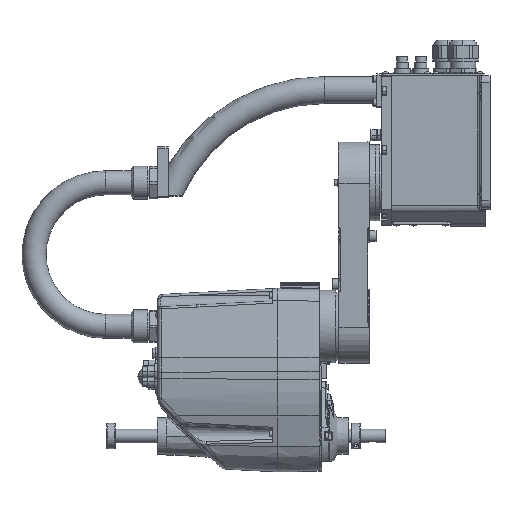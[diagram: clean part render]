
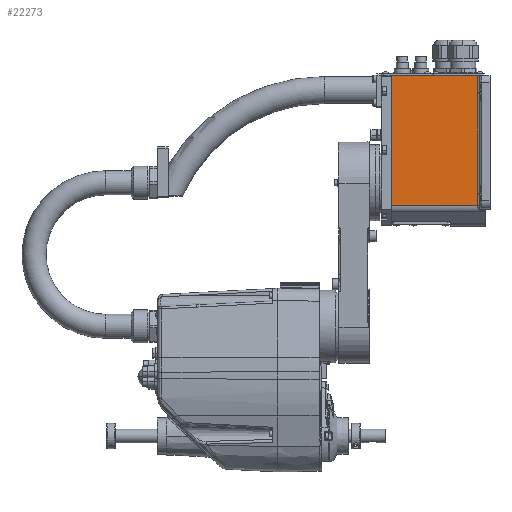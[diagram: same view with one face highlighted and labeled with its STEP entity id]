
A CAD part, left-side view. The second image highlights one B-rep face of the part: STEP entity #22273.
In plain terms, the highlighted planar face has unit normal (-1, 0, 0) as drawn and (0, 0, 1) by its records, which use the part's own axes.
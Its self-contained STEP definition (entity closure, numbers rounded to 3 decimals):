
#2235=DIRECTION('',(0.,1.,0.));
#2236=VECTOR('',#2235,102.694);
#2237=CARTESIAN_POINT('',(127.,-141.694,50.5));
#2238=LINE('',#2237,#2236);
#2296=DIRECTION('',(1.,0.,0.));
#2297=VECTOR('',#2296,153.858);
#2298=CARTESIAN_POINT('',(-26.858,-141.694,
50.5));
#2299=LINE('',#2298,#2297);
#2300=DIRECTION('',(0.,-1.,0.));
#2301=VECTOR('',#2300,102.694);
#2302=CARTESIAN_POINT('',(-26.858,-39.,50.5));
#2303=LINE('',#2302,#2301);
#2304=DIRECTION('',(1.,0.,0.));
#2305=VECTOR('',#2304,153.858);
#2306=CARTESIAN_POINT('',(-26.858,-39.,50.5));
#2307=LINE('',#2306,#2305);
#16818=CARTESIAN_POINT('',(-26.858,-39.,50.5));
#16819=CARTESIAN_POINT('',(127.,-39.,50.5));
#16820=VERTEX_POINT('',#16818);
#16821=VERTEX_POINT('',#16819);
#17047=CARTESIAN_POINT('',(-26.858,-141.694,
50.5));
#17048=CARTESIAN_POINT('',(127.,-141.694,50.5));
#17049=VERTEX_POINT('',#17047);
#17050=VERTEX_POINT('',#17048);
#22260=CARTESIAN_POINT('',(0.,-156.,50.5));
#22261=DIRECTION('',(0.,0.,1.));
#22262=DIRECTION('',(1.,0.,0.));
#22263=AXIS2_PLACEMENT_3D('',#22260,#22261,#22262);
#22264=PLANE('',#22263);
#22266=ORIENTED_EDGE('',*,*,#22265,.F.);
#22268=ORIENTED_EDGE('',*,*,#22267,.F.);
#22269=ORIENTED_EDGE('',*,*,#22241,.T.);
#22270=ORIENTED_EDGE('',*,*,#22106,.F.);
#22271=EDGE_LOOP('',(#22266,#22268,#22269,#22270));
#22272=FACE_OUTER_BOUND('',#22271,.F.);
#22273=ADVANCED_FACE('',(#22272),#22264,.T.);
#22106=EDGE_CURVE('',#17050,#16821,#2238,.T.);
#22241=EDGE_CURVE('',#16820,#16821,#2307,.T.);
#22265=EDGE_CURVE('',#17049,#17050,#2299,.T.);
#22267=EDGE_CURVE('',#16820,#17049,#2303,.T.);
